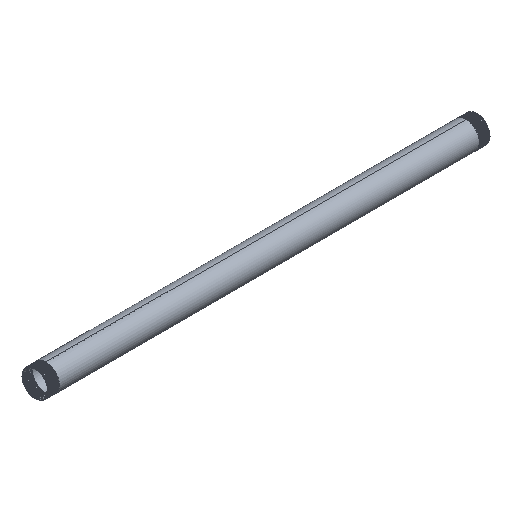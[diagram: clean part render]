
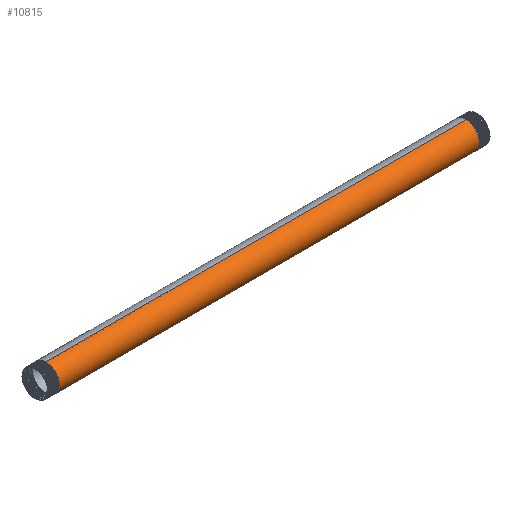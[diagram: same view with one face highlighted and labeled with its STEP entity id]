
A CAD part, isometric view. The second image highlights one B-rep face of the part: STEP entity #10815.
In plain terms, the highlighted cylindrical face has radius 30.15 mm (diameter 60.3 mm), a partial arc.
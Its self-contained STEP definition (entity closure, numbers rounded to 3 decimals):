
#167 = CARTESIAN_POINT ( 'NONE',  ( -149.494, 0., 30.15 ) ) ;
#333 = CARTESIAN_POINT ( 'NONE',  ( -474.688, 0., -30.15 ) ) ;
#940 = EDGE_CURVE ( 'NONE', #9155, #9409, #1721, .T. ) ;
#1005 = CARTESIAN_POINT ( 'NONE',  ( -475.156, -30.15, 12.489 ) ) ;
#1028 = CARTESIAN_POINT ( 'NONE',  ( 474.923, -25.225, -16.563 ) ) ;
#1183 = CARTESIAN_POINT ( 'NONE',  ( 474.873, -21.339, -21.421 ) ) ;
#1258 = CARTESIAN_POINT ( 'NONE',  ( 474.946, -26.653, -14.093 ) ) ;
#1420 = CARTESIAN_POINT ( 'NONE',  ( 475.422, -1.973, 30.089 ) ) ;
#1498 = CARTESIAN_POINT ( 'NONE',  ( 475.437, -0.029, 30.15 ) ) ;
#1721 =( BOUNDED_CURVE ( )  B_SPLINE_CURVE ( 2, ( #11676, #7938, #4650, #8013, #12688, #1005, #15273, #12914, #6998 ),
 .UNSPECIFIED., .F., .F. ) 
 B_SPLINE_CURVE_WITH_KNOTS ( ( 3, 2, 2, 2, 3 ),
 ( 0., 0.006, 0.013, 0.019, 0.026 ),
 .UNSPECIFIED. ) 
 CURVE ( )  GEOMETRIC_REPRESENTATION_ITEM ( )  RATIONAL_B_SPLINE_CURVE ( ( 1., 0.924, 1., 0.924, 1., 0.924, 1., 0.924, 1. ) ) 
 REPRESENTATION_ITEM ( '' )  );
#1754 = EDGE_CURVE ( 'NONE', #13481, #12910, #6147, .T. ) ;
#2059 = DIRECTION ( 'NONE',  ( -1., 0., 0. ) ) ;
#2265 = CARTESIAN_POINT ( 'NONE',  ( 474.731, -5.694, -29.647 ) ) ;
#2340 = CARTESIAN_POINT ( 'NONE',  ( 474.708, -2.673, -30.07 ) ) ;
#2417 = CARTESIAN_POINT ( 'NONE',  ( 475.032, -29.952, -3.977 ) ) ;
#2641 = DIRECTION ( 'NONE',  ( -1., 0., 0. ) ) ;
#3350 = ORIENTED_EDGE ( 'NONE', *, *, #3863, .F. ) ;
#3438 = CARTESIAN_POINT ( 'NONE',  ( 475.233, -22.726, 19.911 ) ) ;
#3593 = EDGE_LOOP ( 'NONE', ( #3350, #13634, #13454, #10968 ) ) ;
#3742 = CARTESIAN_POINT ( 'NONE',  ( 475.438, 0., 30.15 ) ) ;
#3806 = LINE ( 'NONE', #8559, #13471 ) ;
#3863 = EDGE_CURVE ( 'NONE', #13481, #9155, #3806, .T. ) ;
#4523 = CARTESIAN_POINT ( 'NONE',  ( 475.125, -29.192, 7.792 ) ) ;
#4595 = CARTESIAN_POINT ( 'NONE',  ( 475.186, -26.176, 15.091 ) ) ;
#4613 = AXIS2_PLACEMENT_3D ( 'NONE', #7973, #2059, #6811 ) ;
#4650 = CARTESIAN_POINT ( 'NONE',  ( -474.875, -21.319, -21.319 ) ) ;
#4673 = CARTESIAN_POINT ( 'NONE',  ( 474.946, -26.646, -14.107 ) ) ;
#4833 = CARTESIAN_POINT ( 'NONE',  ( 474.945, -26.599, -14.195 ) ) ;
#4902 = LINE ( 'NONE', #167, #9617 ) ;
#4910 = CARTESIAN_POINT ( 'NONE',  ( 475.311, -15.119, 26.16 ) ) ;
#5468 = CARTESIAN_POINT ( 'NONE',  ( 474.688, 0., -30.15 ) ) ;
#5688 = CARTESIAN_POINT ( 'NONE',  ( 475., -29.177, -7.848 ) ) ;
#5764 = CARTESIAN_POINT ( 'NONE',  ( 474.944, -26.57, -14.25 ) ) ;
#5840 = CARTESIAN_POINT ( 'NONE',  ( 474.892, -23.004, -19.654 ) ) ;
#5920 = CARTESIAN_POINT ( 'NONE',  ( 474.964, -27.653, -12.025 ) ) ;
#6147 = B_SPLINE_CURVE_WITH_KNOTS ( 'NONE', 3,
 ( #5468, #14996, #2340, #2265, #7095, #14201, #11846, #11620, #8334, #1183, #5840, #1028, #9285, #5764, #4833, #10525, #9438, #4673, #1258, #13095, #15295, #14048, #9520, #5920, #14282, #5688, #2417, #7170, #11923, #8035, #4523, #8116, #12862, #4595, #12940, #3438, #8185, #13408, #4910, #6389, #12243, #9749, #8573, #8656, #10840, #1420, #11146, #14435, #14359, #9599, #12009, #7329, #1498, #3742 ),
 .UNSPECIFIED., .F., .F.,
 ( 4, 2, 2, 2, 2, 2, 2, 1, 2, 2, 1, 1, 1, 1, 2, 2, 2, 2, 2, 2, 2, 2, 2, 2, 2, 2, 1, 1, 1, 2, 4 ),
 ( 0., 0.002, 0.003, 0.005, 0.006, 0.008, 0.009, 0.009, 0.009, 0.009, 0.009, 0.009, 0.009, 0.009, 0.01, 0.011, 0.013, 0.015, 0.016, 0.018, 0.019, 0.021, 0.023, 0.024, 0.025, 0.025, 0.026, 0.026, 0.026, 0.026, 0.026 ),
 .UNSPECIFIED. ) ;
#6389 = CARTESIAN_POINT ( 'NONE',  ( 475.326, -13.369, 27.096 ) ) ;
#6811 = DIRECTION ( 'NONE',  ( 0., 0., 1. ) ) ;
#6998 = CARTESIAN_POINT ( 'NONE',  ( -475.438, 0., 30.15 ) ) ;
#7095 = CARTESIAN_POINT ( 'NONE',  ( 474.744, -7.316, -29.303 ) ) ;
#7170 = CARTESIAN_POINT ( 'NONE',  ( 475.047, -30.148, -2.003 ) ) ;
#7329 = CARTESIAN_POINT ( 'NONE',  ( 475.437, -0.062, 30.15 ) ) ;
#7938 = CARTESIAN_POINT ( 'NONE',  ( -474.781, -12.489, -30.15 ) ) ;
#7973 = CARTESIAN_POINT ( 'NONE',  ( -149.494, 0., 0. ) ) ;
#8013 = CARTESIAN_POINT ( 'NONE',  ( -474.969, -30.15, -12.489 ) ) ;
#8035 = CARTESIAN_POINT ( 'NONE',  ( 475.094, -29.959, 3.919 ) ) ;
#8116 = CARTESIAN_POINT ( 'NONE',  ( 475.14, -28.618, 9.691 ) ) ;
#8185 = CARTESIAN_POINT ( 'NONE',  ( 475.264, -19.935, 22.705 ) ) ;
#8334 = CARTESIAN_POINT ( 'NONE',  ( 474.836, -17.868, -24.392 ) ) ;
#8559 = CARTESIAN_POINT ( 'NONE',  ( -149.494, 0., -30.15 ) ) ;
#8565 = DIRECTION ( 'NONE',  ( -1., 0., 0. ) ) ;
#8573 = CARTESIAN_POINT ( 'NONE',  ( 475.398, -4.918, 29.763 ) ) ;
#8656 = CARTESIAN_POINT ( 'NONE',  ( 475.406, -3.94, 29.908 ) ) ;
#9155 = VERTEX_POINT ( 'NONE', #333 ) ;
#9285 = CARTESIAN_POINT ( 'NONE',  ( 474.933, -25.919, -15.46 ) ) ;
#9409 = VERTEX_POINT ( 'NONE', #14788 ) ;
#9438 = CARTESIAN_POINT ( 'NONE',  ( 474.946, -26.643, -14.112 ) ) ;
#9447 = CARTESIAN_POINT ( 'NONE',  ( 475.438, 0., 30.15 ) ) ;
#9520 = CARTESIAN_POINT ( 'NONE',  ( 474.958, -27.352, -12.701 ) ) ;
#9599 = CARTESIAN_POINT ( 'NONE',  ( 475.436, -0.216, 30.149 ) ) ;
#9617 = VECTOR ( 'NONE', #8565, 1000. ) ;
#9749 = CARTESIAN_POINT ( 'NONE',  ( 475.374, -7.822, 29.184 ) ) ;
#10467 = CYLINDRICAL_SURFACE ( 'NONE', #4613, 30.15 ) ;
#10525 = CARTESIAN_POINT ( 'NONE',  ( 474.945, -26.629, -14.14 ) ) ;
#10815 = ADVANCED_FACE ( 'NONE', ( #13907 ), #10467, .T. ) ;
#10840 = CARTESIAN_POINT ( 'NONE',  ( 475.418, -2.466, 30.053 ) ) ;
#10968 = ORIENTED_EDGE ( 'NONE', *, *, #940, .F. ) ;
#11146 = CARTESIAN_POINT ( 'NONE',  ( 475.428, -1.234, 30.126 ) ) ;
#11620 = CARTESIAN_POINT ( 'NONE',  ( 474.819, -16.062, -25.596 ) ) ;
#11676 = CARTESIAN_POINT ( 'NONE',  ( -474.688, 0., -30.15 ) ) ;
#11846 = CARTESIAN_POINT ( 'NONE',  ( 474.787, -12.483, -27.519 ) ) ;
#11923 = CARTESIAN_POINT ( 'NONE',  ( 475.078, -30.152, 1.945 ) ) ;
#12009 = CARTESIAN_POINT ( 'NONE',  ( 475.437, -0.123, 30.15 ) ) ;
#12243 = CARTESIAN_POINT ( 'NONE',  ( 475.358, -9.721, 28.608 ) ) ;
#12688 = CARTESIAN_POINT ( 'NONE',  ( -475.063, -30.15, 0. ) ) ;
#12862 = CARTESIAN_POINT ( 'NONE',  ( 475.171, -27.11, 13.341 ) ) ;
#12910 = VERTEX_POINT ( 'NONE', #9447 ) ;
#12914 = CARTESIAN_POINT ( 'NONE',  ( -475.344, -12.489, 30.15 ) ) ;
#12940 = CARTESIAN_POINT ( 'NONE',  ( 475.217, -23.984, 18.377 ) ) ;
#13095 = CARTESIAN_POINT ( 'NONE',  ( 474.946, -26.686, -14.032 ) ) ;
#13343 = EDGE_CURVE ( 'NONE', #12910, #9409, #4902, .T. ) ;
#13408 = CARTESIAN_POINT ( 'NONE',  ( 475.279, -18.402, 23.965 ) ) ;
#13454 = ORIENTED_EDGE ( 'NONE', *, *, #13343, .T. ) ;
#13471 = VECTOR ( 'NONE', #2641, 1000. ) ;
#13481 = VERTEX_POINT ( 'NONE', #13790 ) ;
#13634 = ORIENTED_EDGE ( 'NONE', *, *, #1754, .T. ) ;
#13790 = CARTESIAN_POINT ( 'NONE',  ( 474.688, 0., -30.15 ) ) ;
#13907 = FACE_OUTER_BOUND ( 'NONE', #3593, .T. ) ;
#14048 = CARTESIAN_POINT ( 'NONE',  ( 474.951, -26.972, -13.477 ) ) ;
#14201 = CARTESIAN_POINT ( 'NONE',  ( 474.772, -10.71, -28.24 ) ) ;
#14282 = CARTESIAN_POINT ( 'NONE',  ( 474.984, -28.6, -9.746 ) ) ;
#14359 = CARTESIAN_POINT ( 'NONE',  ( 475.434, -0.432, 30.147 ) ) ;
#14435 = CARTESIAN_POINT ( 'NONE',  ( 475.431, -0.864, 30.139 ) ) ;
#14788 = CARTESIAN_POINT ( 'NONE',  ( -475.438, 0., 30.15 ) ) ;
#14996 = CARTESIAN_POINT ( 'NONE',  ( 474.697, -1.273, -30.15 ) ) ;
#15273 = CARTESIAN_POINT ( 'NONE',  ( -475.25, -21.319, 21.319 ) ) ;
#15295 = CARTESIAN_POINT ( 'NONE',  ( 474.948, -26.775, -13.861 ) ) ;
